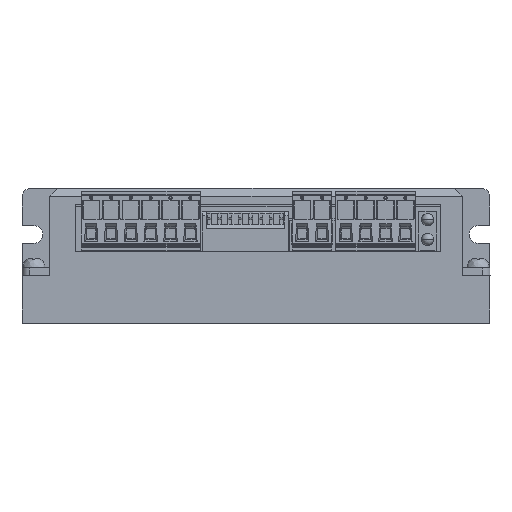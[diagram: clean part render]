
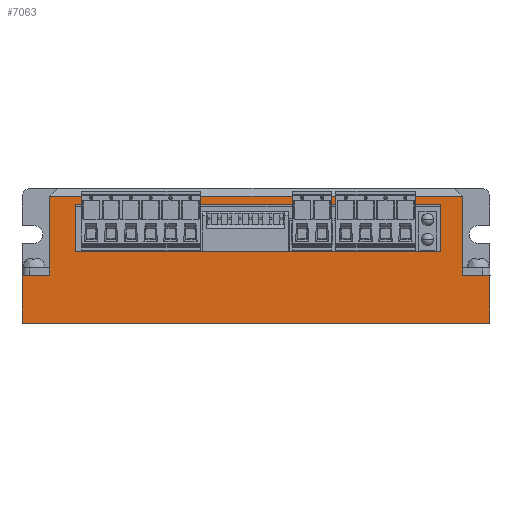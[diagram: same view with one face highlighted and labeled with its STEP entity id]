
A CAD part, top view. The second image highlights one B-rep face of the part: STEP entity #7063.
In plain terms, the highlighted planar face has unit normal (0, 0, 1).
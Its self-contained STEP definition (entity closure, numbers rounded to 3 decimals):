
#621=DIRECTION('',(1.,0.,0.));
#622=VECTOR('',#621,92.1);
#623=CARTESIAN_POINT('',(13.501,30.,0.));
#624=LINE('',#623,#622);
#629=DIRECTION('',(-1.,0.,0.));
#630=VECTOR('',#629,7.001);
#631=CARTESIAN_POINT('',(7.001,12.,0.));
#632=LINE('',#631,#630);
#633=DIRECTION('',(0.,-1.,0.));
#634=VECTOR('',#633,20.);
#635=CARTESIAN_POINT('',(7.001,32.,0.));
#636=LINE('',#635,#634);
#637=DIRECTION('',(0.,1.,0.));
#638=VECTOR('',#637,20.);
#639=CARTESIAN_POINT('',(111.001,12.,-0.001));
#640=LINE('',#639,#638);
#641=DIRECTION('',(-1.,0.,0.));
#642=VECTOR('',#641,6.999);
#643=CARTESIAN_POINT('',(118.,12.,0.));
#644=LINE('',#643,#642);
#645=DIRECTION('',(0.,1.,0.));
#646=VECTOR('',#645,12.);
#647=CARTESIAN_POINT('',(118.,0.,0.));
#648=LINE('',#647,#646);
#649=DIRECTION('',(1.,0.,0.));
#650=VECTOR('',#649,118.);
#651=CARTESIAN_POINT('',(0.,0.,0.));
#652=LINE('',#651,#650);
#653=DIRECTION('',(0.,-1.,0.));
#654=VECTOR('',#653,12.);
#655=CARTESIAN_POINT('',(0.,12.,0.));
#656=LINE('',#655,#654);
#657=DIRECTION('',(0.,1.,0.));
#658=VECTOR('',#657,12.);
#659=CARTESIAN_POINT('',(13.501,18.,0.));
#660=LINE('',#659,#658);
#673=DIRECTION('',(-1.,0.,0.));
#674=VECTOR('',#673,92.1);
#675=CARTESIAN_POINT('',(105.601,18.,-0.002));
#676=LINE('',#675,#674);
#685=DIRECTION('',(0.,-1.,0.));
#686=VECTOR('',#685,12.);
#687=CARTESIAN_POINT('',(105.601,30.,-0.002));
#688=LINE('',#687,#686);
#1792=DIRECTION('',(1.,0.,0.));
#1793=VECTOR('',#1792,104.);
#1794=CARTESIAN_POINT('',(7.001,32.,0.));
#1795=LINE('',#1794,#1793);
#4682=CARTESIAN_POINT('',(0.,12.,0.));
#4683=CARTESIAN_POINT('',(0.,0.,0.));
#4684=VERTEX_POINT('',#4682);
#4685=VERTEX_POINT('',#4683);
#5040=CARTESIAN_POINT('',(118.,0.,0.));
#5041=VERTEX_POINT('',#5040);
#5042=CARTESIAN_POINT('',(118.,12.,0.));
#5043=VERTEX_POINT('',#5042);
#5197=CARTESIAN_POINT('',(7.001,32.,0.));
#5199=VERTEX_POINT('',#5197);
#5542=CARTESIAN_POINT('',(111.001,32.,-0.003));
#5543=VERTEX_POINT('',#5542);
#5644=CARTESIAN_POINT('',(13.501,30.,0.));
#5645=CARTESIAN_POINT('',(105.601,30.,-0.002));
#5646=VERTEX_POINT('',#5644);
#5647=VERTEX_POINT('',#5645);
#5648=CARTESIAN_POINT('',(13.501,18.,0.));
#5649=VERTEX_POINT('',#5648);
#5650=CARTESIAN_POINT('',(105.601,18.,-0.002));
#5651=VERTEX_POINT('',#5650);
#5669=CARTESIAN_POINT('',(7.001,12.,0.));
#5671=VERTEX_POINT('',#5669);
#5686=CARTESIAN_POINT('',(111.001,12.,-0.001));
#5688=VERTEX_POINT('',#5686);
#7032=CARTESIAN_POINT('',(59.,6.,0.));
#7033=DIRECTION('',(0.,0.,1.));
#7034=DIRECTION('',(1.,0.,0.));
#7035=AXIS2_PLACEMENT_3D('',#7032,#7033,#7034);
#7036=PLANE('',#7035);
#7038=ORIENTED_EDGE('',*,*,#7037,.F.);
#7039=ORIENTED_EDGE('',*,*,#5774,.F.);
#7041=ORIENTED_EDGE('',*,*,#7040,.T.);
#7043=ORIENTED_EDGE('',*,*,#7042,.F.);
#7045=ORIENTED_EDGE('',*,*,#7044,.F.);
#7047=ORIENTED_EDGE('',*,*,#7046,.F.);
#7049=ORIENTED_EDGE('',*,*,#7048,.F.);
#7051=ORIENTED_EDGE('',*,*,#7050,.F.);
#7052=EDGE_LOOP('',(#7038,#7039,#7041,#7043,#7045,#7047,#7049,#7051));
#7053=FACE_OUTER_BOUND('',#7052,.F.);
#7054=ORIENTED_EDGE('',*,*,#7015,.F.);
#7056=ORIENTED_EDGE('',*,*,#7055,.F.);
#7058=ORIENTED_EDGE('',*,*,#7057,.F.);
#7060=ORIENTED_EDGE('',*,*,#7059,.F.);
#7061=EDGE_LOOP('',(#7054,#7056,#7058,#7060));
#7062=FACE_BOUND('',#7061,.F.);
#7063=ADVANCED_FACE('',(#7053,#7062),#7036,.T.);
#5774=EDGE_CURVE('',#5199,#5671,#636,.T.);
#7015=EDGE_CURVE('',#5646,#5647,#624,.T.);
#7037=EDGE_CURVE('',#5671,#4684,#632,.T.);
#7040=EDGE_CURVE('',#5199,#5543,#1795,.T.);
#7042=EDGE_CURVE('',#5688,#5543,#640,.T.);
#7044=EDGE_CURVE('',#5043,#5688,#644,.T.);
#7046=EDGE_CURVE('',#5041,#5043,#648,.T.);
#7048=EDGE_CURVE('',#4685,#5041,#652,.T.);
#7050=EDGE_CURVE('',#4684,#4685,#656,.T.);
#7055=EDGE_CURVE('',#5649,#5646,#660,.T.);
#7057=EDGE_CURVE('',#5651,#5649,#676,.T.);
#7059=EDGE_CURVE('',#5647,#5651,#688,.T.);
